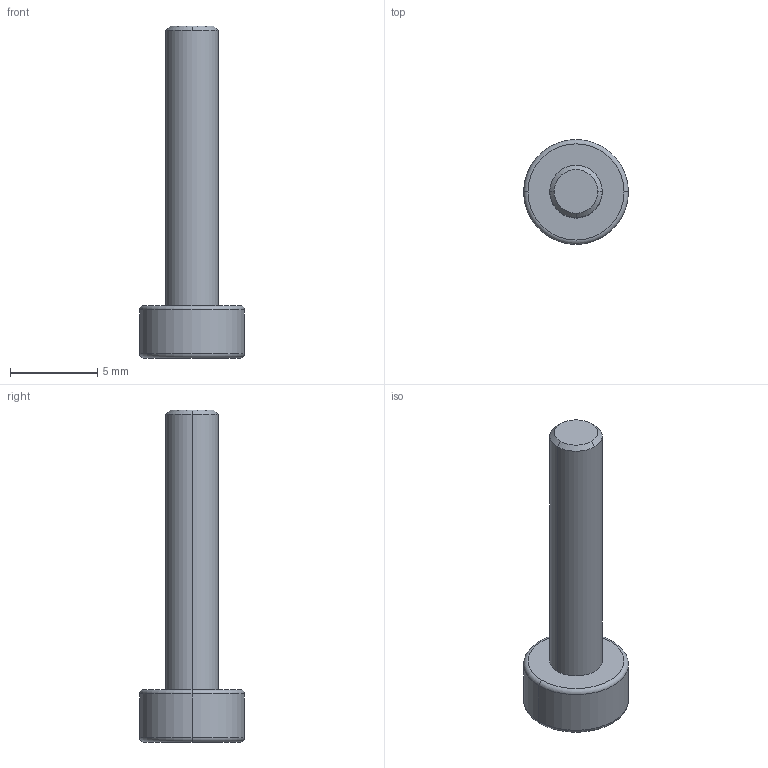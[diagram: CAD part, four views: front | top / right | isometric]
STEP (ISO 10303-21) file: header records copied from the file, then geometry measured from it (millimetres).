
FILE_DESCRIPTION (( 'STEP AP203' ), '1' );
FILE_NAME ('M3-16___.stp_Défaut_sldprt.STEP', '2024-11-30T15:38:06', ( '' ), ( '' ), 'SwSTEP 2.0', 'SolidWorks 2023', '' );
FILE_SCHEMA (( 'CONFIG_CONTROL_DESIGN' ));
Length unit declared in the file: millimetre
Products named in the file (1): M3-16___.stp_Défaut_sldprt
Bounding box: 6 x 6 x 19 mm (x, y, z)
Volume: 176.4 mm3; surface area: 282.3 mm2
Topology: 1 solids, 1 shells, 21 faces, 45 edges, 28 vertices
Faces by surface type: plane 10, torus 4, cylinder 4, cone 3
Entity records: 648 total; most frequent: DIRECTION 109, CARTESIAN_POINT 95, ORIENTED_EDGE 90, EDGE_CURVE 45, AXIS2_PLACEMENT_3D 42, VERTEX_POINT 28, LINE 25, VECTOR 25
